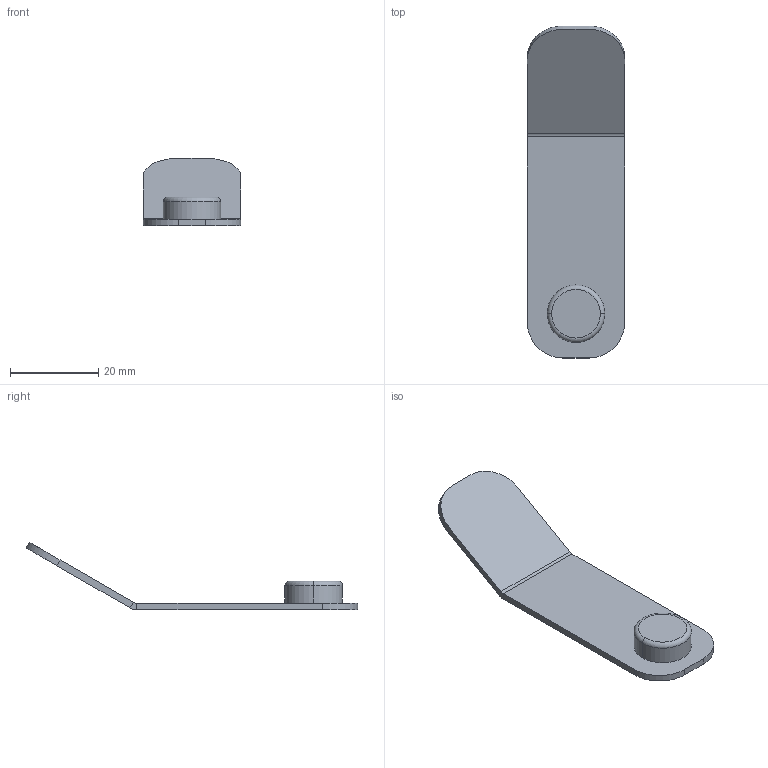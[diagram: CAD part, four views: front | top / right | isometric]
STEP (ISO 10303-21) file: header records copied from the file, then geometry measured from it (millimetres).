
FILE_DESCRIPTION (( 'STEP AP214' ), '1' );
FILE_NAME ('Wieszak na rêczniki przykrêcany.STEP', '2023-05-11T10:50:08', ( '' ), ( '' ), 'SwSTEP 2.0', 'SolidWorks 2021', '' );
FILE_SCHEMA (( 'AUTOMOTIVE_DESIGN' ));
Length unit declared in the file: millimetre
Products named in the file (1): Wieszak na rêczniki przykrêcany
Bounding box: 22 x 75.05 x 15.3 mm (x, y, z)
Volume: 3101.4 mm3; surface area: 4026.8 mm2
Topology: 2 solids, 2 shells, 26 faces, 56 edges, 34 vertices
Faces by surface type: plane 14, cylinder 10, torus 2
Entity records: 1037 total; most frequent: DIRECTION 134, CARTESIAN_POINT 117, ORIENTED_EDGE 112, EDGE_CURVE 56, AXIS2_PLACEMENT_3D 51, VERTEX_POINT 34, VECTOR 32, LINE 32
